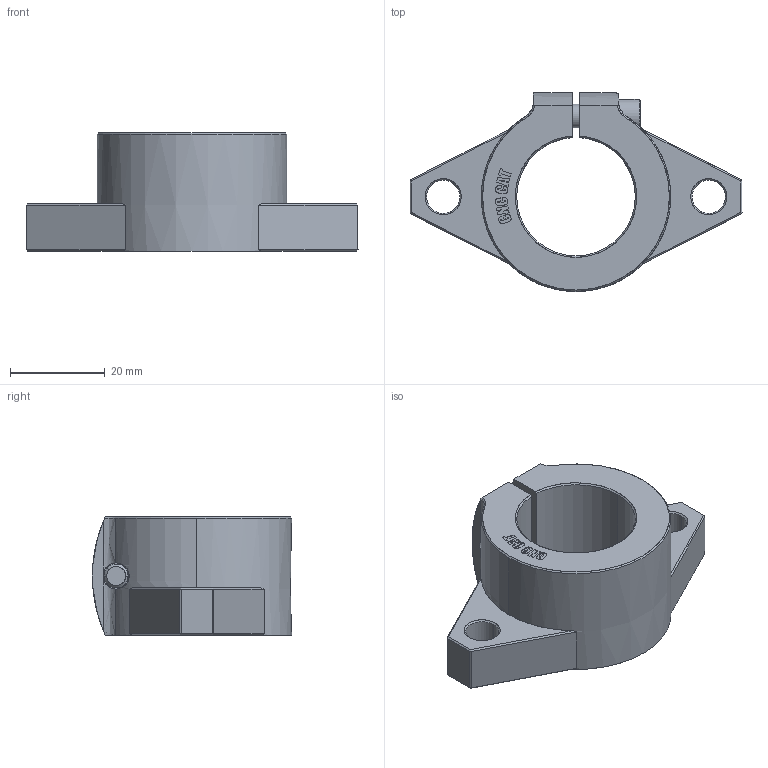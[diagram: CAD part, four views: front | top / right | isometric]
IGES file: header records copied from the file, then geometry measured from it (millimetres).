
Start section: SolidWorks IGES file using analytic representation for surfaces
Global section: file name: D:\SOLIDWORKS PROEKTI\freelance cnc cat\TRETA SERIJA SHF, SK\SHF\SHF25.IGS; native system: SolidWorks 2016; preprocessor: SolidWorks 2016; author: User; date: 170808.181900; units: millimetre
Bounding box: 70 x 42 x 25 mm (x, y, z)
Surface area: 9456.6 mm2 (no closed solid volume)
Topology: 0 solids, 0 shells, 189 faces, 2593 edges, 3071 vertices
Faces by surface type: bspline 125, revolution 64
